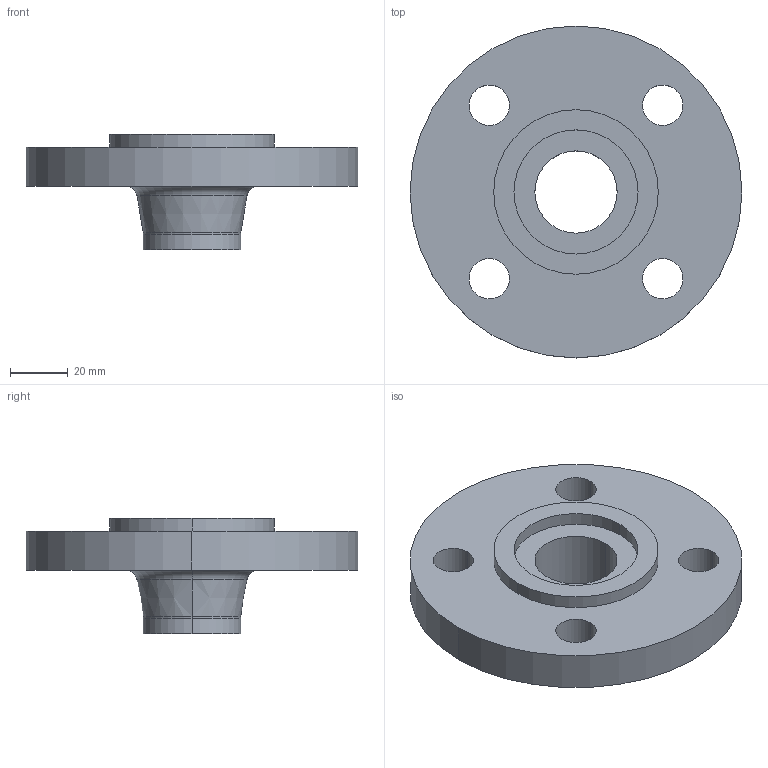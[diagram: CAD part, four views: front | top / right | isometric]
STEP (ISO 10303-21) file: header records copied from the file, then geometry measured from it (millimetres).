
FILE_DESCRIPTION (( 'STEP AP214' ), '1' );
FILE_NAME ('PN40 DN25 Type 11 - Type C Face.STEP', '2018-12-29T20:32:25', ( '' ), ( '' ), 'SwSTEP 2.0', 'SolidWorks 2019', '' );
FILE_SCHEMA (( 'AUTOMOTIVE_DESIGN' ));
Length unit declared in the file: millimetre
Products named in the file (1): PN40 DN25 Type 11 - Type C Face
Bounding box: 115 x 115 x 40 mm (x, y, z)
Volume: 136654.2 mm3; surface area: 32155.7 mm2
Topology: 1 solids, 1 shells, 29 faces, 66 edges, 42 vertices
Faces by surface type: cylinder 18, plane 5, torus 4, cone 2
Entity records: 892 total; most frequent: DIRECTION 172, CARTESIAN_POINT 138, ORIENTED_EDGE 132, AXIS2_PLACEMENT_3D 76, EDGE_CURVE 66, CIRCLE 46, VERTEX_POINT 42, EDGE_LOOP 42
